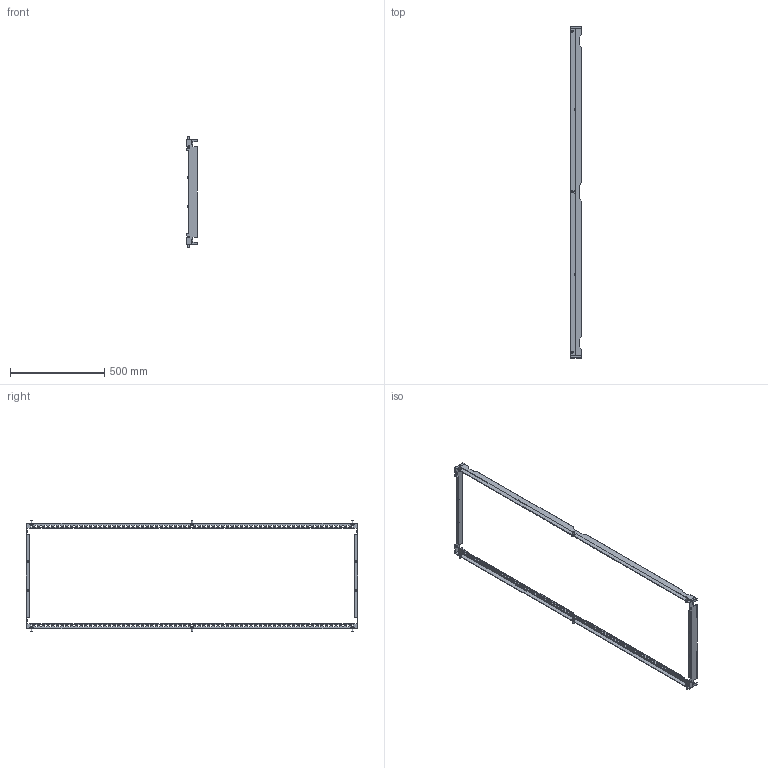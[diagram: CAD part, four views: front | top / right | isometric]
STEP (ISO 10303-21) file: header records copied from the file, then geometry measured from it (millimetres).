
FILE_DESCRIPTION (( 'STEP AP203' ), '1' );
FILE_NAME ('R6IP1860.step', '2025-07-11T08:08:48', ( '' ), ( '' ), 'SwSTEP 2.0', 'SolidWorks 2022', '' );
FILE_SCHEMA (( 'CONFIG_CONTROL_DESIGN' ));
Length unit declared in the file: millimetre
Products named in the file (9): M6 DIN 6923 cl.8,0 Zinc_straight; RB.3320.00.00.0 СБ_-04; Pressing nut М6 S-M6-1; M8x20 DIN 6921 cl.8,8 Zinc_straight; RB.3321.00.01.0; R6IP1860; RB.3320.00.01.0_-04; RB.3321.00.00.0 СБ; RB.3320.00.02.0_-04
Assembly tree (20 placements, depth 3):
  R6IP1860
    RB.3320.00.00.0 СБ_-04  x2
      RB.3320.00.01.0_-04
      RB.3320.00.02.0_-04
    RB.3321.00.00.0 СБ  x2
      RB.3321.00.01.0
      Pressing nut М6 S-M6-1
    M6 DIN 6923 cl.8,0 Zinc_straight  x4
    M8x20 DIN 6921 cl.8,8 Zinc_straight  x7
Bounding box: 57.76 x 1757.6 x 593.2 mm (x, y, z)
Volume: 557933.8 mm3; surface area: 882553.7 mm2
Topology: 21 solids, 21 shells, 4922 faces, 14363 edges, 9490 vertices
Faces by surface type: plane 3523, cylinder 1207, cone 108, bspline 66, torus 18
Full cylindrical faces by diameter (mm): 5 x8, 6 x4, 8 x11, 8.73 x4, 8.85 x4, 11.1 x4
Entity records: 71285 total; most frequent: CARTESIAN_POINT 12977, ORIENTED_EDGE 12164, DIRECTION 11406, EDGE_CURVE 6082, VECTOR 4732, LINE 4732, VERTEX_POINT 4042, AXIS2_PLACEMENT_3D 3337
